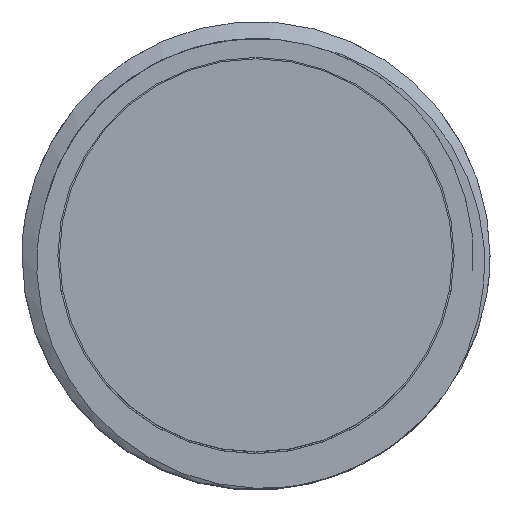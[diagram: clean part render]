
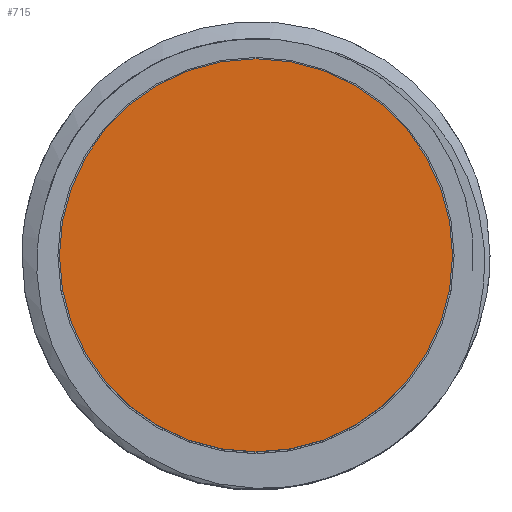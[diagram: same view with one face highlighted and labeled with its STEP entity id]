
A CAD part, top view. The second image highlights one B-rep face of the part: STEP entity #715.
In plain terms, the highlighted planar face has unit normal (0, 0, 1).
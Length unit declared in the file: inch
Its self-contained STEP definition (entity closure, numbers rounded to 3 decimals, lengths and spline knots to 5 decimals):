
#99 = VERTEX_POINT ( 'NONE', #1088 ) ;
#112 = VERTEX_POINT ( 'NONE', #1061 ) ;
#135 = EDGE_CURVE ( 'NONE', #112, #99, #1212, .T. ) ;
#715 = ADVANCED_FACE ( 'NONE', ( #4151 ), #4157, .F. ) ;
#752 = EDGE_LOOP ( 'NONE', ( #753, #754 ) ) ;
#753 = ORIENTED_EDGE ( 'NONE', *, *, #135, .F. ) ;
#754 = ORIENTED_EDGE ( 'NONE', *, *, #755, .F. ) ;
#755 = EDGE_CURVE ( 'NONE', #99, #112, #4000, .T. ) ;
#1061 = CARTESIAN_POINT ( 'NONE',  ( -0.315, 0., 1.02 ) ) ;
#1088 = CARTESIAN_POINT ( 'NONE',  ( 0.315, 0., 1.02 ) ) ;
#1208 = DIRECTION ( 'NONE',  ( -1., 0., 0. ) ) ;
#1209 = DIRECTION ( 'NONE',  ( 0., 0., -1. ) ) ;
#1210 = CARTESIAN_POINT ( 'NONE',  ( 0., 0., 1.02 ) ) ;
#1211 = AXIS2_PLACEMENT_3D ( 'NONE', #1210, #1209, #1208 ) ;
#1212 = CIRCLE ( 'NONE', #1211, 0.315 ) ;
#3996 = DIRECTION ( 'NONE',  ( -1., 0., 0. ) ) ;
#3997 = DIRECTION ( 'NONE',  ( 0., 0., -1. ) ) ;
#3998 = CARTESIAN_POINT ( 'NONE',  ( 0., 0., 1.02 ) ) ;
#3999 = AXIS2_PLACEMENT_3D ( 'NONE', #3998, #3997, #3996 ) ;
#4000 = CIRCLE ( 'NONE', #3999, 0.315 ) ;
#4146 = DIRECTION ( 'NONE',  ( -1., 0., 0. ) ) ;
#4147 = DIRECTION ( 'NONE',  ( 0., 0., -1. ) ) ;
#4148 = CARTESIAN_POINT ( 'NONE',  ( 0.315, 0., 1.02 ) ) ;
#4150 = AXIS2_PLACEMENT_3D ( 'NONE', #4148, #4147, #4146 ) ;
#4151 = FACE_OUTER_BOUND ( 'NONE', #752, .T. ) ;
#4157 = PLANE ( 'NONE',  #4150 ) ;
